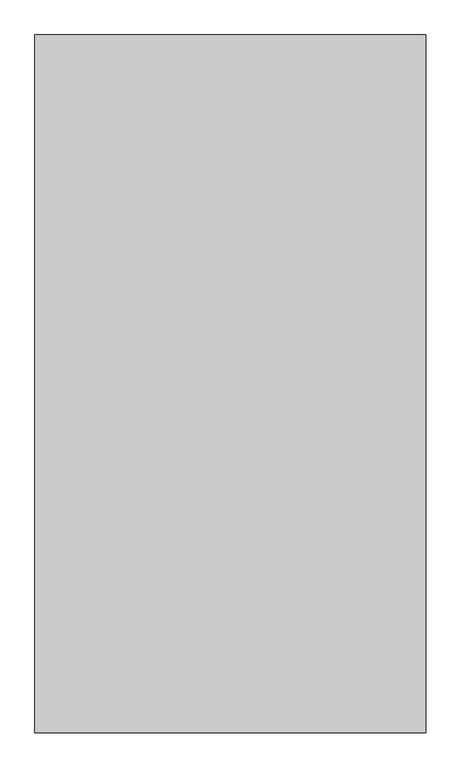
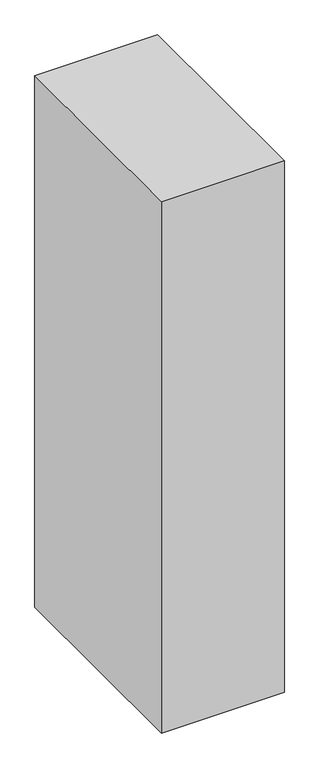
"""IFC4 building model written with IfcOpenShell, lengths in millimetres: column geometry, M_混凝土-矩形-柱 : RC柱70*125."""

from ifc_helpers import new_model, si_unit, frame, origin, place, context, project, spatial, polyline, outline, extrude, source, transform, mapped, element, save


def column_4e9181b0(model_context):
    return source(origin(), model_context, "Body", "SweptSolid", [
        extrude(outline(polyline([(350.0, 625.0), (350.0, -625.0), (-350.0, -625.0), (-350.0, 625.0), (350.0, 625.0)])), frame((0.0, 0.0, 8000.0), z_axis=(0.0, 0.0, 1.0), x_axis=(1.0, 0.0, 0.0)), (0.0, 0.0, 1.0), 3200.0),
    ])


if __name__ == "__main__":
    model = new_model("IFC4")
    model_context = context("Model", 3, world=origin())
    ifc_project = project(units=[si_unit("LENGTHUNIT", "METRE", prefix="MILLI")], contexts=[model_context])
    site = spatial("IfcSite", under=ifc_project)
    building = spatial("IfcBuilding", under=site)
    placement = place(None, origin())
    column_shape = column_4e9181b0(model_context)
    element("IfcColumn", 1, ObjectType="M_混凝土-矩形-柱 : RC柱70*125", at=placement, inside=building, context=model_context, shape_type="MappedRepresentation", body=[
        mapped(column_shape, transform((0.0, 0.0, 0.0), x_axis=(1.0, 0.0, 0.0), y_axis=(0.0, 1.0, 0.0), z_axis=(0.0, 0.0, 1.0))),
    ])
    save(model, "model.ifc")
